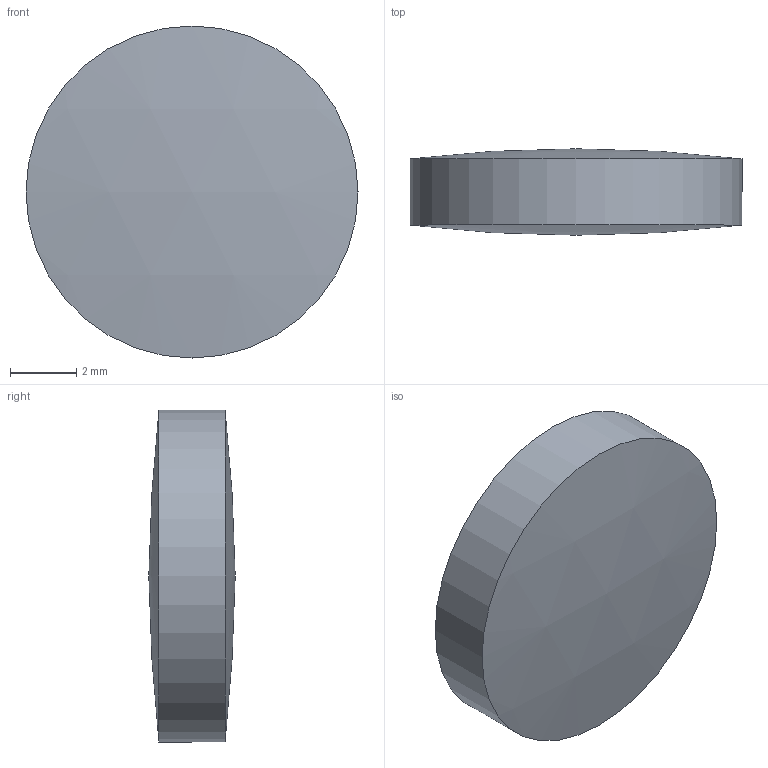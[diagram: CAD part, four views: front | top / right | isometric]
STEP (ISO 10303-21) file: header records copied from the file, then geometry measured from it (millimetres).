
FILE_DESCRIPTION((''),'2;1');
FILE_NAME('T:\Public\7_3次元データ\1図面ﾃﾞｰﾀ\7_素子\レンズ\5_球面両凸レンズ-BK7(SLB-B-P)\SLB-B-P\φ10\SLB-10B-40P\SLB-10B-40P.stp','2009-05-13T13:06:03',('okegawa'),(''),'Autodesk Inventor 2008','Autodesk Inventor 2008','');
FILE_SCHEMA(('AUTOMOTIVE_DESIGN { 1 0 10303 214 1 1 1 1 }'));
Length unit declared in the file: millimetre
Products named in the file (1): SLB-10B-40P
Bounding box: 10 x 2.6 x 10 mm (x, y, z)
Volume: 180.5 mm3; surface area: 220.4 mm2
Topology: 1 solids, 1 shells, 3 faces, 3 edges, 2 vertices
Faces by surface type: sphere 2, cylinder 1
Full cylindrical faces by diameter (mm): 10 x1
Entity records: 80 total; most frequent: DIRECTION 12, CARTESIAN_POINT 8, AXIS2_PLACEMENT_3D 6, ORIENTED_EDGE 4, EDGE_LOOP 4, FACE_OUTER_BOUND 3, ADVANCED_FACE 3, DIMENSIONAL_EXPONENTS 2
